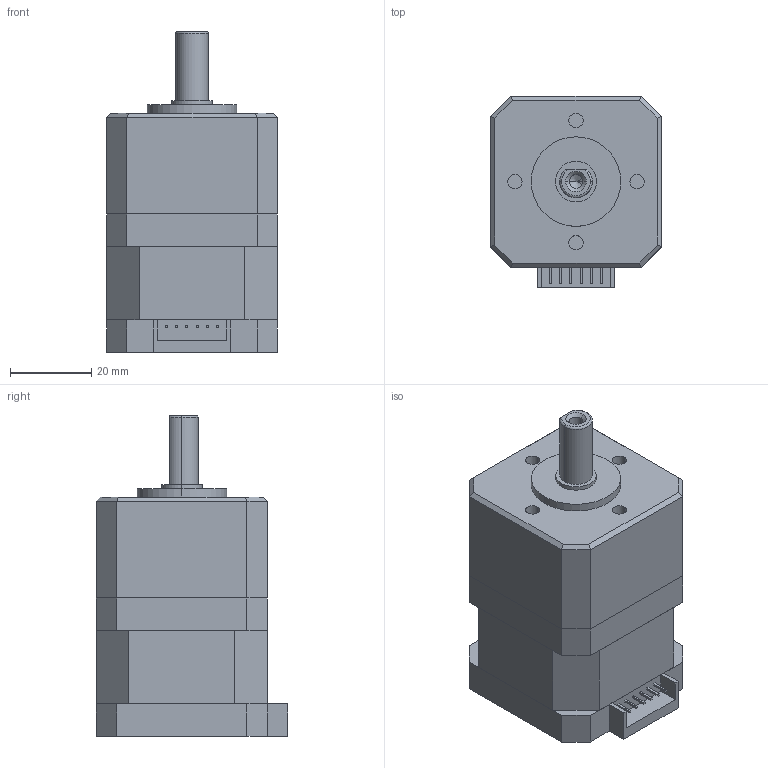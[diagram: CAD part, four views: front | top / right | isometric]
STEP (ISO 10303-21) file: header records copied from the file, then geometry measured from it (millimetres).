
FILE_DESCRIPTION (( 'STEP AP203' ), '1' );
FILE_NAME ('42PG010-D14-0434.STEP', '2019-10-12T08:15:16', ( 'China' ), ( 'Home' ), 'SwSTEP 2.0', 'SolidWorks 2016', '' );
FILE_SCHEMA (( 'CONFIG_CONTROL_DESIGN' ));
Length unit declared in the file: millimetre
Products named in the file (1): 42PG010-D14-0434
Bounding box: 42 x 47 x 78.8 mm (x, y, z)
Volume: 101026.3 mm3; surface area: 23768.3 mm2
Topology: 4 solids, 4 shells, 126 faces, 293 edges, 187 vertices
Faces by surface type: plane 94, cylinder 17, cone 12, torus 3
Entity records: 3707 total; most frequent: CARTESIAN_POINT 738, DIRECTION 586, ORIENTED_EDGE 582, EDGE_CURVE 291, LINE 240, VECTOR 240, VERTEX_POINT 187, AXIS2_PLACEMENT_3D 173
